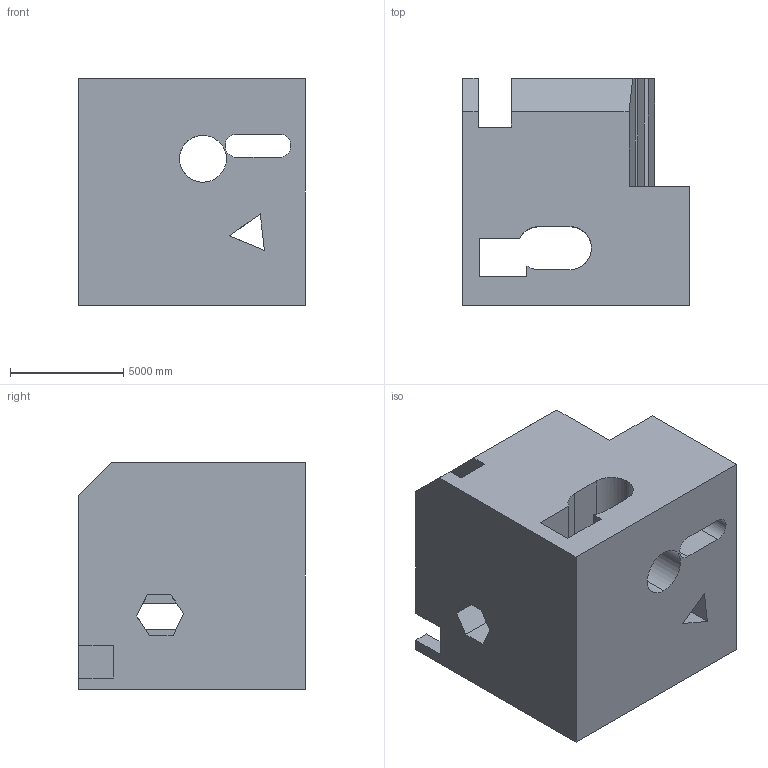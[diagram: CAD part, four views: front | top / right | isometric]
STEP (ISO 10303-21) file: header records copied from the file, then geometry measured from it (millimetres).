
FILE_DESCRIPTION (( 'STEP AP203' ), '1' );
FILE_NAME ('195.STEP', '2022-08-31T14:37:19', ( 'user' ), ( '' ), 'SwSTEP 2.0', 'SolidWorks 2021', '' );
FILE_SCHEMA (( 'CONFIG_CONTROL_DESIGN' ));
Length unit declared in the file: centimetre
Products named in the file (1): 195
Bounding box: 10000 x 10000 x 10000 mm (x, y, z)
Volume: 692060727124.7 mm3; surface area: 880066566.6 mm2
Topology: 1 solids, 1 shells, 50 faces, 157 edges, 104 vertices
Faces by surface type: plane 39, cylinder 11
Entity records: 2114 total; most frequent: CARTESIAN_POINT 618, ORIENTED_EDGE 314, DIRECTION 269, EDGE_CURVE 157, LINE 131, VECTOR 131, VERTEX_POINT 104, AXIS2_PLACEMENT_3D 69
